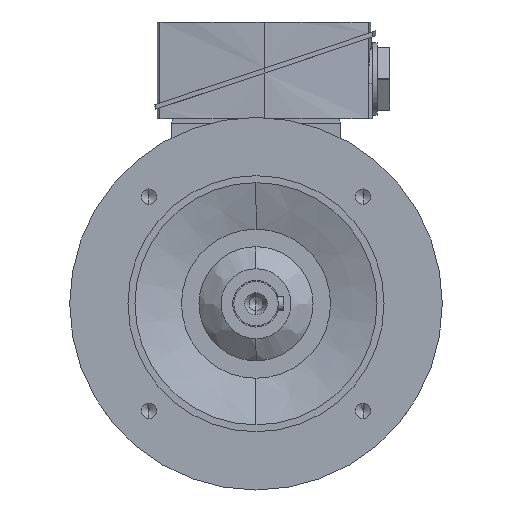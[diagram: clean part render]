
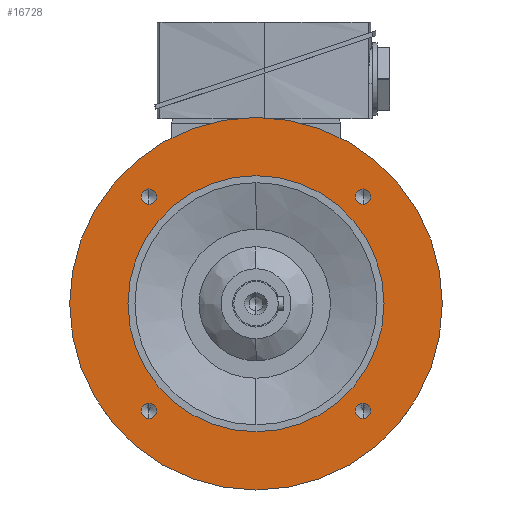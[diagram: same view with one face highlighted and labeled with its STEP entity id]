
A CAD part, left-side view. The second image highlights one B-rep face of the part: STEP entity #16728.
In plain terms, the highlighted planar face has unit normal (-1, 0, 0).
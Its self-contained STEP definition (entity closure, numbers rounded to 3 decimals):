
#135 = EDGE_LOOP ( 'NONE', ( #15078, #20531 ) ) ;
#346 = CIRCLE ( 'NONE', #23039, 3.325 ) ;
#379 = CARTESIAN_POINT ( 'NONE',  ( -27., -45.962, -45.962 ) ) ;
#471 = DIRECTION ( 'NONE',  ( 0., 0., -1. ) ) ;
#568 = DIRECTION ( 'NONE',  ( 1., 0., 0. ) ) ;
#657 = DIRECTION ( 'NONE',  ( 1., 0., 0. ) ) ;
#730 = ORIENTED_EDGE ( 'NONE', *, *, #21089, .F. ) ;
#826 = CARTESIAN_POINT ( 'NONE',  ( -27., 45.962, -49.287 ) ) ;
#950 = CARTESIAN_POINT ( 'NONE',  ( -27., 45.962, 45.962 ) ) ;
#1056 = EDGE_CURVE ( 'NONE', #12479, #25039, #13179, .T. ) ;
#2015 = VERTEX_POINT ( 'NONE', #26574 ) ;
#2416 = CARTESIAN_POINT ( 'NONE',  ( -27., -45.962, 49.287 ) ) ;
#2657 = CIRCLE ( 'NONE', #25435, 3.325 ) ;
#2973 = CIRCLE ( 'NONE', #25292, 55. ) ;
#3429 = CARTESIAN_POINT ( 'NONE',  ( -27., 45.962, 45.962 ) ) ;
#3956 = ORIENTED_EDGE ( 'NONE', *, *, #9561, .T. ) ;
#4375 = CIRCLE ( 'NONE', #19921, 3.325 ) ;
#4555 = DIRECTION ( 'NONE',  ( 1., 0., 0. ) ) ;
#4579 = CARTESIAN_POINT ( 'NONE',  ( -27., 0., 0. ) ) ;
#4672 = DIRECTION ( 'NONE',  ( 1., 0., 0. ) ) ;
#4717 = CARTESIAN_POINT ( 'NONE',  ( -27., -45.962, 42.637 ) ) ;
#4721 = AXIS2_PLACEMENT_3D ( 'NONE', #4579, #4672, #4826 ) ;
#4826 = DIRECTION ( 'NONE',  ( 0., 0., 1. ) ) ;
#5016 = CARTESIAN_POINT ( 'NONE',  ( -27., 0., 0. ) ) ;
#5276 = CARTESIAN_POINT ( 'NONE',  ( -27., 45.962, -42.637 ) ) ;
#5281 = DIRECTION ( 'NONE',  ( 1., 0., 0. ) ) ;
#5564 = DIRECTION ( 'NONE',  ( 0., 0., -1. ) ) ;
#7191 = AXIS2_PLACEMENT_3D ( 'NONE', #18440, #5281, #20633 ) ;
#7213 = DIRECTION ( 'NONE',  ( 0., 0., 1. ) ) ;
#7356 = AXIS2_PLACEMENT_3D ( 'NONE', #950, #657, #471 ) ;
#7420 = ORIENTED_EDGE ( 'NONE', *, *, #27511, .T. ) ;
#7471 = VERTEX_POINT ( 'NONE', #2416 ) ;
#8259 = CARTESIAN_POINT ( 'NONE',  ( -27., -45.962, -42.637 ) ) ;
#8447 = ORIENTED_EDGE ( 'NONE', *, *, #25414, .T. ) ;
#9295 = CIRCLE ( 'NONE', #24484, 80. ) ;
#9561 = EDGE_CURVE ( 'NONE', #25495, #20752, #15219, .T. ) ;
#9574 = EDGE_CURVE ( 'NONE', #14912, #2015, #23720, .T. ) ;
#9575 = DIRECTION ( 'NONE',  ( 0., 0., -1. ) ) ;
#9986 = CARTESIAN_POINT ( 'NONE',  ( -27., -45.962, -45.962 ) ) ;
#10430 = EDGE_CURVE ( 'NONE', #27679, #24803, #346, .T. ) ;
#10555 = FACE_BOUND ( 'NONE', #12161, .T. ) ;
#10681 = ORIENTED_EDGE ( 'NONE', *, *, #22525, .F. ) ;
#10934 = DIRECTION ( 'NONE',  ( 1., 0., 0. ) ) ;
#12161 = EDGE_LOOP ( 'NONE', ( #20892, #18772 ) ) ;
#12226 = DIRECTION ( 'NONE',  ( 0., 0., -1. ) ) ;
#12479 = VERTEX_POINT ( 'NONE', #19946 ) ;
#12845 = AXIS2_PLACEMENT_3D ( 'NONE', #12972, #12945, #12911 ) ;
#12911 = DIRECTION ( 'NONE',  ( 0., 0., 1. ) ) ;
#12945 = DIRECTION ( 'NONE',  ( -1., 0., 0. ) ) ;
#12972 = CARTESIAN_POINT ( 'NONE',  ( -27., 0., 67.5 ) ) ;
#13179 = CIRCLE ( 'NONE', #19471, 55. ) ;
#13704 = PLANE ( 'NONE',  #12845 ) ;
#13959 = DIRECTION ( 'NONE',  ( 0., 0., 1. ) ) ;
#13990 = CARTESIAN_POINT ( 'NONE',  ( -27., 45.962, 42.637 ) ) ;
#14399 = ORIENTED_EDGE ( 'NONE', *, *, #27706, .T. ) ;
#14559 = CARTESIAN_POINT ( 'NONE',  ( -27., 0., -80. ) ) ;
#14887 = ORIENTED_EDGE ( 'NONE', *, *, #9574, .T. ) ;
#14912 = VERTEX_POINT ( 'NONE', #8259 ) ;
#15078 = ORIENTED_EDGE ( 'NONE', *, *, #26131, .T. ) ;
#15219 = CIRCLE ( 'NONE', #7356, 3.325 ) ;
#15600 = CIRCLE ( 'NONE', #7191, 3.325 ) ;
#15765 = EDGE_LOOP ( 'NONE', ( #14399, #3956 ) ) ;
#15848 = CARTESIAN_POINT ( 'NONE',  ( -27., 0., 80. ) ) ;
#16076 = EDGE_LOOP ( 'NONE', ( #8447, #14887 ) ) ;
#16297 = CARTESIAN_POINT ( 'NONE',  ( -27., 0., 0. ) ) ;
#16419 = DIRECTION ( 'NONE',  ( 1., 0., 0. ) ) ;
#16447 = AXIS2_PLACEMENT_3D ( 'NONE', #3429, #18721, #5564 ) ;
#16471 = FACE_BOUND ( 'NONE', #16076, .T. ) ;
#16515 = DIRECTION ( 'NONE',  ( 0., 0., 1. ) ) ;
#16728 = ADVANCED_FACE ( 'NONE', ( #17131, #22272, #22957, #27903, #16471, #10555 ), #13704, .T. ) ;
#17131 = FACE_BOUND ( 'NONE', #135, .T. ) ;
#17664 = CARTESIAN_POINT ( 'NONE',  ( -27., 45.962, -45.962 ) ) ;
#18440 = CARTESIAN_POINT ( 'NONE',  ( -27., -45.962, 45.962 ) ) ;
#18721 = DIRECTION ( 'NONE',  ( 1., 0., 0. ) ) ;
#18772 = ORIENTED_EDGE ( 'NONE', *, *, #26228, .T. ) ;
#19471 = AXIS2_PLACEMENT_3D ( 'NONE', #26802, #22740, #13959 ) ;
#19533 = CARTESIAN_POINT ( 'NONE',  ( -27., 0., 55. ) ) ;
#19637 = VERTEX_POINT ( 'NONE', #14559 ) ;
#19870 = DIRECTION ( 'NONE',  ( 0., 0., -1. ) ) ;
#19921 = AXIS2_PLACEMENT_3D ( 'NONE', #17664, #4555, #19870 ) ;
#19946 = CARTESIAN_POINT ( 'NONE',  ( -27., 0., -55. ) ) ;
#20033 = AXIS2_PLACEMENT_3D ( 'NONE', #9986, #25271, #12226 ) ;
#20338 = DIRECTION ( 'NONE',  ( 1., 0., 0. ) ) ;
#20531 = ORIENTED_EDGE ( 'NONE', *, *, #1056, .T. ) ;
#20633 = DIRECTION ( 'NONE',  ( 0., 0., -1. ) ) ;
#20752 = VERTEX_POINT ( 'NONE', #13990 ) ;
#20892 = ORIENTED_EDGE ( 'NONE', *, *, #25069, .T. ) ;
#21089 = EDGE_CURVE ( 'NONE', #22528, #19637, #26428, .T. ) ;
#22272 = FACE_OUTER_BOUND ( 'NONE', #28037, .T. ) ;
#22525 = EDGE_CURVE ( 'NONE', #19637, #22528, #9295, .T. ) ;
#22528 = VERTEX_POINT ( 'NONE', #15848 ) ;
#22740 = DIRECTION ( 'NONE',  ( 1., 0., 0. ) ) ;
#22916 = EDGE_LOOP ( 'NONE', ( #7420, #27392 ) ) ;
#22957 = FACE_BOUND ( 'NONE', #15765, .T. ) ;
#23039 = AXIS2_PLACEMENT_3D ( 'NONE', #26241, #26207, #26179 ) ;
#23197 = CARTESIAN_POINT ( 'NONE',  ( -27., 45.962, 49.287 ) ) ;
#23720 = CIRCLE ( 'NONE', #25097, 3.325 ) ;
#24051 = CARTESIAN_POINT ( 'NONE',  ( -27., -45.962, 45.962 ) ) ;
#24484 = AXIS2_PLACEMENT_3D ( 'NONE', #16297, #16419, #16515 ) ;
#24803 = VERTEX_POINT ( 'NONE', #826 ) ;
#25039 = VERTEX_POINT ( 'NONE', #19533 ) ;
#25069 = EDGE_CURVE ( 'NONE', #26705, #7471, #2657, .T. ) ;
#25097 = AXIS2_PLACEMENT_3D ( 'NONE', #379, #568, #9575 ) ;
#25271 = DIRECTION ( 'NONE',  ( 1., 0., 0. ) ) ;
#25292 = AXIS2_PLACEMENT_3D ( 'NONE', #5016, #20338, #7213 ) ;
#25414 = EDGE_CURVE ( 'NONE', #2015, #14912, #28023, .T. ) ;
#25435 = AXIS2_PLACEMENT_3D ( 'NONE', #24051, #10934, #26175 ) ;
#25495 = VERTEX_POINT ( 'NONE', #23197 ) ;
#25791 = CIRCLE ( 'NONE', #16447, 3.325 ) ;
#26131 = EDGE_CURVE ( 'NONE', #25039, #12479, #2973, .T. ) ;
#26175 = DIRECTION ( 'NONE',  ( 0., 0., -1. ) ) ;
#26179 = DIRECTION ( 'NONE',  ( 0., 0., -1. ) ) ;
#26207 = DIRECTION ( 'NONE',  ( 1., 0., 0. ) ) ;
#26228 = EDGE_CURVE ( 'NONE', #7471, #26705, #15600, .T. ) ;
#26241 = CARTESIAN_POINT ( 'NONE',  ( -27., 45.962, -45.962 ) ) ;
#26428 = CIRCLE ( 'NONE', #4721, 80. ) ;
#26574 = CARTESIAN_POINT ( 'NONE',  ( -27., -45.962, -49.287 ) ) ;
#26705 = VERTEX_POINT ( 'NONE', #4717 ) ;
#26802 = CARTESIAN_POINT ( 'NONE',  ( -27., 0., 0. ) ) ;
#27392 = ORIENTED_EDGE ( 'NONE', *, *, #10430, .T. ) ;
#27511 = EDGE_CURVE ( 'NONE', #24803, #27679, #4375, .T. ) ;
#27679 = VERTEX_POINT ( 'NONE', #5276 ) ;
#27706 = EDGE_CURVE ( 'NONE', #20752, #25495, #25791, .T. ) ;
#27903 = FACE_BOUND ( 'NONE', #22916, .T. ) ;
#28023 = CIRCLE ( 'NONE', #20033, 3.325 ) ;
#28037 = EDGE_LOOP ( 'NONE', ( #730, #10681 ) ) ;
